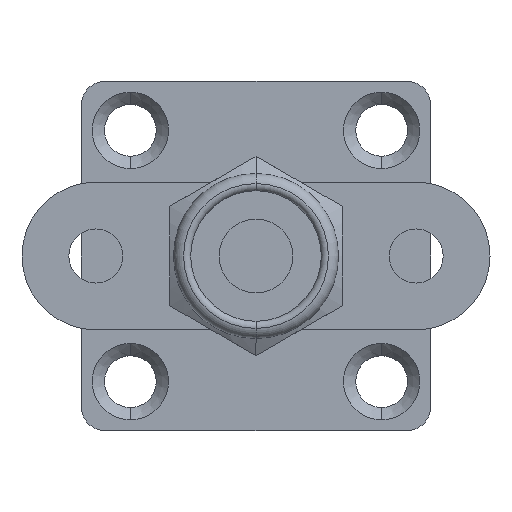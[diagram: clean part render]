
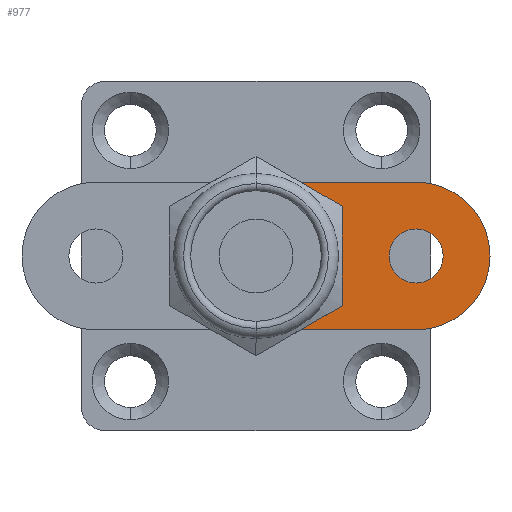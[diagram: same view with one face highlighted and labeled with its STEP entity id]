
A CAD part, front view. The second image highlights one B-rep face of the part: STEP entity #977.
In plain terms, the highlighted planar face has unit normal (0, -1, 0).
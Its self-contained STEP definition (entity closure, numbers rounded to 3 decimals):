
#14 = DIRECTION ( 'NONE',  ( 0., 0., -1. ) ) ;
#30 = DIRECTION ( 'NONE',  ( 1., 0., 0. ) ) ;
#123 = EDGE_CURVE ( 'NONE', #1850, #1413, #1170, .T. ) ;
#166 = AXIS2_PLACEMENT_3D ( 'NONE', #1089, #2563, #649 ) ;
#238 = PLANE ( 'NONE',  #166 ) ;
#315 = CARTESIAN_POINT ( 'NONE',  ( 6.5, -4.4, 3. ) ) ;
#358 = DIRECTION ( 'NONE',  ( 0., 1., 0. ) ) ;
#386 = AXIS2_PLACEMENT_3D ( 'NONE', #1769, #2439, #1612 ) ;
#403 = DIRECTION ( 'NONE',  ( 0., 0., -1. ) ) ;
#482 = LINE ( 'NONE', #897, #1679 ) ;
#649 = DIRECTION ( 'NONE',  ( 0., 0., -1. ) ) ;
#667 = CARTESIAN_POINT ( 'NONE',  ( 6.5, -4.4, 0. ) ) ;
#676 = CARTESIAN_POINT ( 'NONE',  ( 0., -4.4, -3. ) ) ;
#767 = EDGE_LOOP ( 'NONE', ( #2397, #2694 ) ) ;
#783 = AXIS2_PLACEMENT_3D ( 'NONE', #667, #2133, #14 ) ;
#897 = CARTESIAN_POINT ( 'NONE',  ( -6.5, -4.4, 3. ) ) ;
#957 = AXIS2_PLACEMENT_3D ( 'NONE', #1789, #1761, #2585 ) ;
#975 = EDGE_CURVE ( 'NONE', #1040, #2347, #2672, .T. ) ;
#977 = ADVANCED_FACE ( 'NONE', ( #1942, #2130 ), #238, .T. ) ;
#1026 = CARTESIAN_POINT ( 'NONE',  ( 6.5, -4.4, 0. ) ) ;
#1037 = VERTEX_POINT ( 'NONE', #2189 ) ;
#1040 = VERTEX_POINT ( 'NONE', #1952 ) ;
#1089 = CARTESIAN_POINT ( 'NONE',  ( -6.5, -4.4, 0. ) ) ;
#1134 = EDGE_LOOP ( 'NONE', ( #1910, #2014, #2527, #1330 ) ) ;
#1170 = CIRCLE ( 'NONE', #957, 3. ) ;
#1330 = ORIENTED_EDGE ( 'NONE', *, *, #1825, .T. ) ;
#1413 = VERTEX_POINT ( 'NONE', #1710 ) ;
#1426 = EDGE_CURVE ( 'NONE', #1850, #1037, #2577, .T. ) ;
#1535 = AXIS2_PLACEMENT_3D ( 'NONE', #1026, #358, #403 ) ;
#1592 = VECTOR ( 'NONE', #30, 1000. ) ;
#1612 = DIRECTION ( 'NONE',  ( 0., 0., -1. ) ) ;
#1679 = VECTOR ( 'NONE', #2131, 1000. ) ;
#1710 = CARTESIAN_POINT ( 'NONE',  ( 0., -4.4, 3. ) ) ;
#1761 = DIRECTION ( 'NONE',  ( 0., -1., 0. ) ) ;
#1769 = CARTESIAN_POINT ( 'NONE',  ( 6.5, -4.4, 0. ) ) ;
#1789 = CARTESIAN_POINT ( 'NONE',  ( 0., -4.4, 0. ) ) ;
#1825 = EDGE_CURVE ( 'NONE', #1973, #1413, #482, .T. ) ;
#1848 = CIRCLE ( 'NONE', #386, 3. ) ;
#1850 = VERTEX_POINT ( 'NONE', #676 ) ;
#1910 = ORIENTED_EDGE ( 'NONE', *, *, #123, .F. ) ;
#1938 = CIRCLE ( 'NONE', #1535, 1.1 ) ;
#1942 = FACE_BOUND ( 'NONE', #767, .T. ) ;
#1952 = CARTESIAN_POINT ( 'NONE',  ( 6.5, -4.4, 1.1 ) ) ;
#1957 = EDGE_CURVE ( 'NONE', #1037, #1973, #1848, .T. ) ;
#1973 = VERTEX_POINT ( 'NONE', #315 ) ;
#2014 = ORIENTED_EDGE ( 'NONE', *, *, #1426, .T. ) ;
#2130 = FACE_OUTER_BOUND ( 'NONE', #1134, .T. ) ;
#2131 = DIRECTION ( 'NONE',  ( -1., 0., 0. ) ) ;
#2133 = DIRECTION ( 'NONE',  ( 0., 1., 0. ) ) ;
#2144 = EDGE_CURVE ( 'NONE', #2347, #1040, #1938, .T. ) ;
#2189 = CARTESIAN_POINT ( 'NONE',  ( 6.5, -4.4, -3. ) ) ;
#2347 = VERTEX_POINT ( 'NONE', #2356 ) ;
#2356 = CARTESIAN_POINT ( 'NONE',  ( 6.5, -4.4, -1.1 ) ) ;
#2397 = ORIENTED_EDGE ( 'NONE', *, *, #975, .T. ) ;
#2439 = DIRECTION ( 'NONE',  ( 0., -1., 0. ) ) ;
#2527 = ORIENTED_EDGE ( 'NONE', *, *, #1957, .T. ) ;
#2563 = DIRECTION ( 'NONE',  ( 0., -1., 0. ) ) ;
#2577 = LINE ( 'NONE', #2596, #1592 ) ;
#2585 = DIRECTION ( 'NONE',  ( 0., 0., -1. ) ) ;
#2596 = CARTESIAN_POINT ( 'NONE',  ( -6.5, -4.4, -3. ) ) ;
#2672 = CIRCLE ( 'NONE', #783, 1.1 ) ;
#2694 = ORIENTED_EDGE ( 'NONE', *, *, #2144, .T. ) ;
